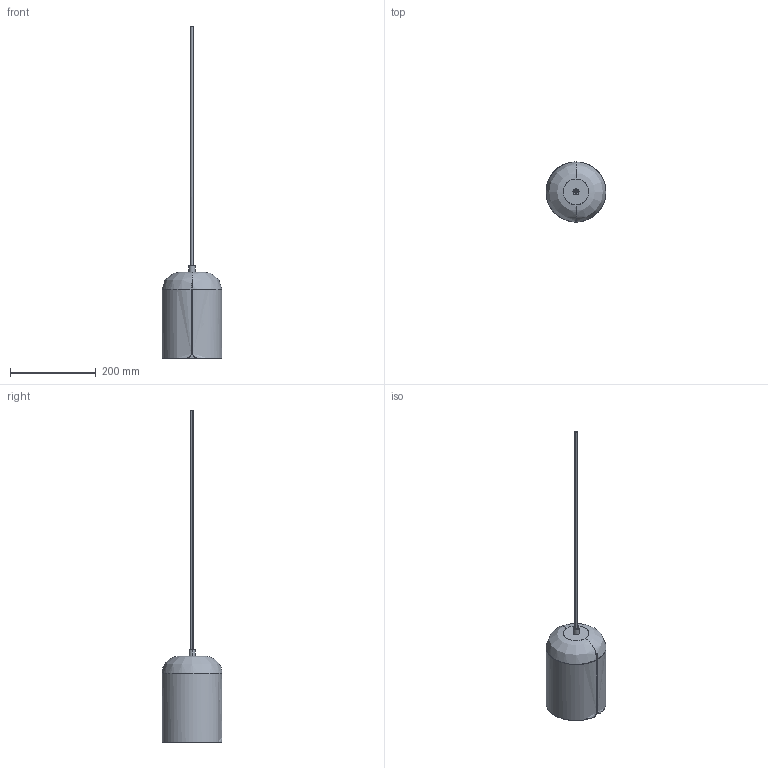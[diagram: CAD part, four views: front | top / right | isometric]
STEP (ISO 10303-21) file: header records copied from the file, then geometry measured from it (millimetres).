
FILE_DESCRIPTION(/* description */ (''),/* implementation_level */ '2;1');
FILE_NAME(/* name */ 'Gap pendant short',/* time_stamp */ '2020-03-18T12:29:15+01:00',/* author */ (''),/* organization */ (''),/* preprocessor_version */ 'ST-DEVELOPER v15',/* originating_system */ '',/* authorisation */ '');
FILE_SCHEMA (('AUTOMOTIVE_DESIGN'));
Length unit declared in the file: millimetre
Products named in the file (1): Document
Bounding box: 139.93 x 139.97 x 774.66 mm (x, y, z)
Surface area: 198862.7 mm2 (no closed solid volume)
Topology: 0 solids, 26 shells, 32 faces, 125 edges, 113 vertices
Faces by surface type: bspline 32
Entity records: 3826 total; most frequent: CARTESIAN_POINT 2431, B_SPLINE_CURVE_WITH_KNOTS 194, ORIENTED_EDGE 137, PCURVE 137, DEFINITIONAL_REPRESENTATION 137, SURFACE_CURVE 125, EDGE_CURVE 125, VERTEX_POINT 113
